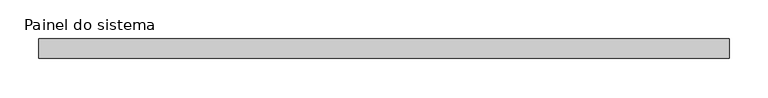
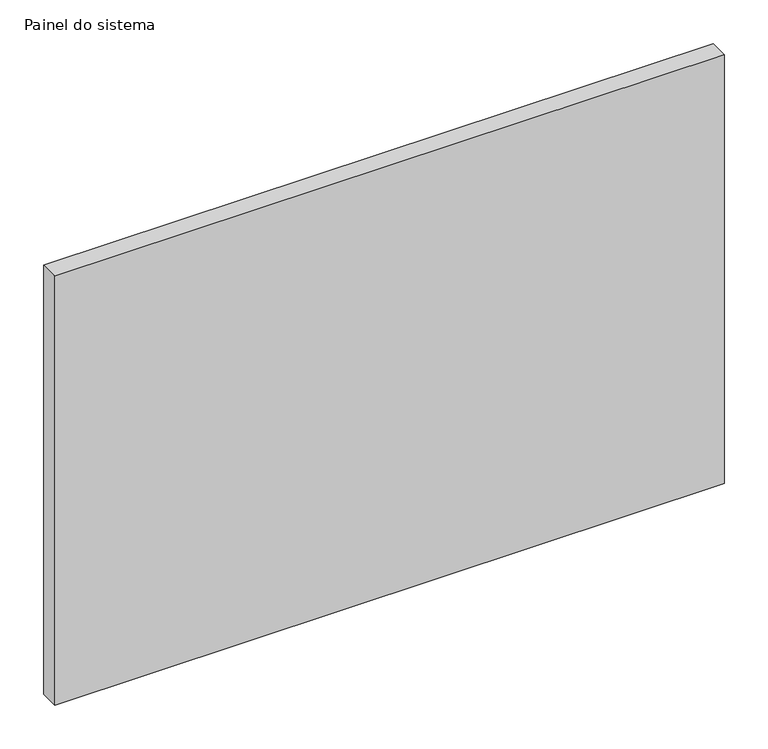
"""IFC4 building model written with IfcOpenShell, lengths in millimetres: plate geometry, Painel do sistema : Envidraçado."""

from ifc_helpers import new_model, si_unit, origin, origin_with_axes, place, context, project, spatial, polyline, outline, extrude, source, transform, mapped, element, save


def painel_do_sistema_2a991a2e(model_context):
    return source(origin(), model_context, "Body", "SweptSolid", [
        extrude(outline(polyline([(442.5, 24.5), (-442.5, 24.5), (-442.5, 49.5), (442.5, 49.5), (442.5, 24.5)])), origin_with_axes(), (0.0, 0.0, 1.0), 600.0),
    ])


if __name__ == "__main__":
    model = new_model("IFC4")
    model_context = context("Model", 3, world=origin())
    ifc_project = project(units=[si_unit("LENGTHUNIT", "METRE", prefix="MILLI")], contexts=[model_context])
    site = spatial("IfcSite", under=ifc_project)
    building = spatial("IfcBuilding", under=site)
    placement = place(None, origin())
    painel_do_sistema_shape = painel_do_sistema_2a991a2e(model_context)
    element("IfcPlate", 1, ObjectType="Painel do sistema : Envidraçado", at=placement, inside=building, context=model_context, shape_type="MappedRepresentation", body=[
        mapped(painel_do_sistema_shape, transform((0.0, 0.0, 0.0), x_axis=(1.0, 0.0, 0.0), y_axis=(0.0, 1.0, 0.0), z_axis=(0.0, 0.0, 1.0))),
    ])
    save(model, "model.ifc")
